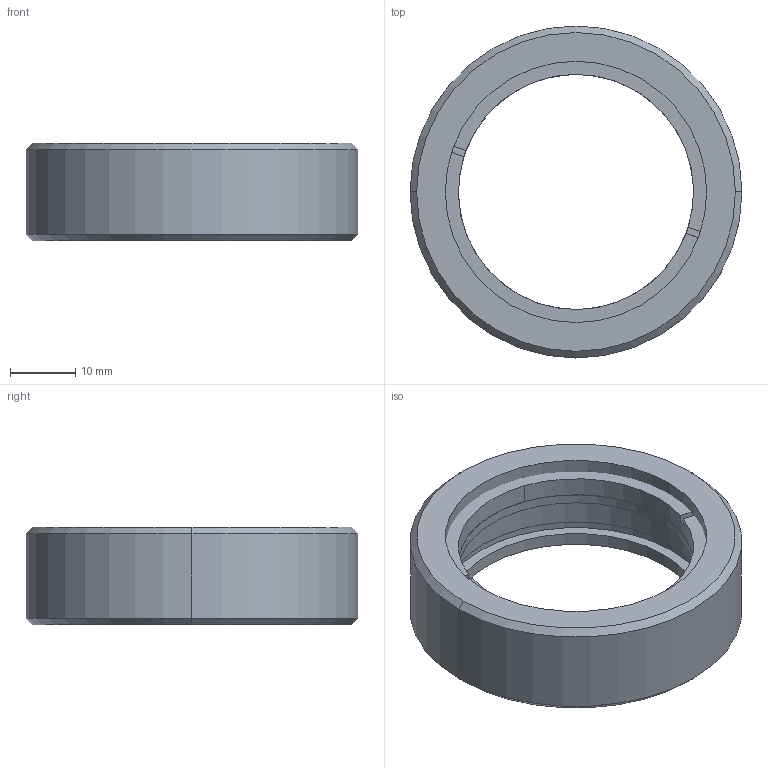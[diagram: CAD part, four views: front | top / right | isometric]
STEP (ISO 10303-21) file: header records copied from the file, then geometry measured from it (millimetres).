
FILE_DESCRIPTION (( 'STEP AP203' ), '1' );
FILE_NAME ('ACOA40-2.STEP', '2022-07-22T08:53:58', ( '' ), ( '' ), 'SwSTEP 2.0', 'SolidWorks 2021', '' );
FILE_SCHEMA (( 'CONFIG_CONTROL_DESIGN' ));
Length unit declared in the file: millimetre
Products named in the file (1): ACOA40-2
Bounding box: 50.8 x 50.8 x 15 mm (x, y, z)
Volume: 12771.5 mm3; surface area: 8155.9 mm2
Topology: 3 solids, 3 shells, 213 faces, 581 edges, 385 vertices
Faces by surface type: plane 188, cylinder 16, cone 9
Entity records: 6717 total; most frequent: CARTESIAN_POINT 1192, ORIENTED_EDGE 1162, DIRECTION 1054, EDGE_CURVE 581, LINE 528, VECTOR 528, VERTEX_POINT 385, AXIS2_PLACEMENT_3D 263
